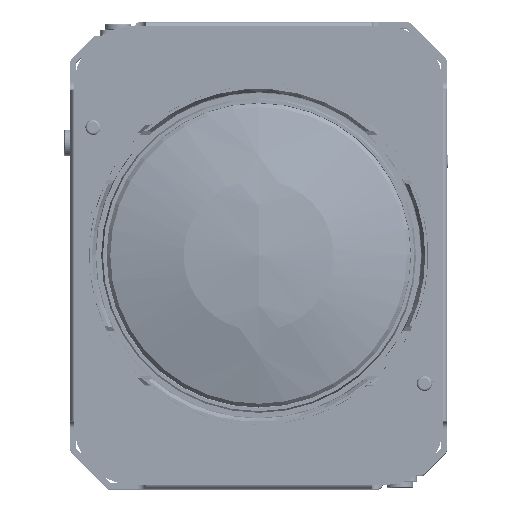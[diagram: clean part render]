
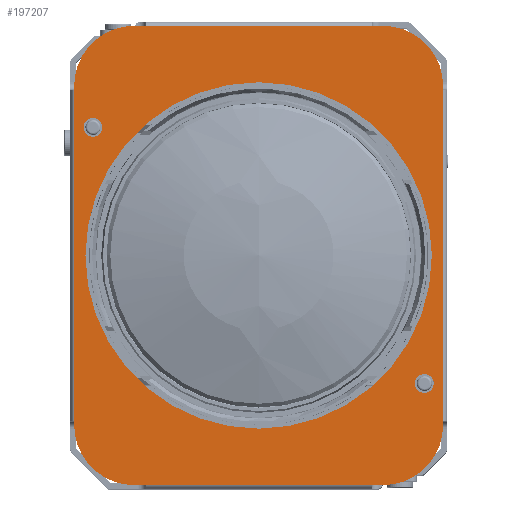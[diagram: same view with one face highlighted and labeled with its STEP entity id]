
A CAD part, top view. The second image highlights one B-rep face of the part: STEP entity #197207.
In plain terms, the highlighted planar face has unit normal (0, 0, 1).
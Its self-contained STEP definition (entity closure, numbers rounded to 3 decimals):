
#197180 = VERTEX_POINT('',#197181);
#197181 = CARTESIAN_POINT('',(24.5,22.5,57.75));
#197189 = VERTEX_POINT('',#197190);
#197190 = CARTESIAN_POINT('',(16.5,30.5,57.75));
#197196 = EDGE_CURVE('',#197189,#197180,#197197,.T.);
#197197 = CIRCLE('',#197198,8.);
#197198 = AXIS2_PLACEMENT_3D('',#197199,#197200,#197201);
#197199 = CARTESIAN_POINT('',(16.5,22.5,57.75));
#197200 = DIRECTION('',(0.,0.,-1.));
#197201 = DIRECTION('',(0.,1.,0.));
#197207 = ADVANCED_FACE('',(#197208,#197268,#197288,#197308),#197328,.T.
  );
#197208 = FACE_BOUND('',#197209,.F.);
#197209 = EDGE_LOOP('',(#197210,#197211,#197219,#197228,#197236,#197245,
    #197253,#197262));
#197210 = ORIENTED_EDGE('',*,*,#197196,.T.);
#197211 = ORIENTED_EDGE('',*,*,#197212,.T.);
#197212 = EDGE_CURVE('',#197180,#197213,#197215,.T.);
#197213 = VERTEX_POINT('',#197214);
#197214 = CARTESIAN_POINT('',(24.5,-22.5,57.75));
#197215 = LINE('',#197216,#197217);
#197216 = CARTESIAN_POINT('',(24.5,22.5,57.75));
#197217 = VECTOR('',#197218,1.);
#197218 = DIRECTION('',(0.,-1.,0.));
#197219 = ORIENTED_EDGE('',*,*,#197220,.T.);
#197220 = EDGE_CURVE('',#197213,#197221,#197223,.T.);
#197221 = VERTEX_POINT('',#197222);
#197222 = CARTESIAN_POINT('',(16.5,-30.5,57.75));
#197223 = CIRCLE('',#197224,8.);
#197224 = AXIS2_PLACEMENT_3D('',#197225,#197226,#197227);
#197225 = CARTESIAN_POINT('',(16.5,-22.5,57.75));
#197226 = DIRECTION('',(0.,0.,-1.));
#197227 = DIRECTION('',(1.,0.,0.));
#197228 = ORIENTED_EDGE('',*,*,#197229,.F.);
#197229 = EDGE_CURVE('',#197230,#197221,#197232,.T.);
#197230 = VERTEX_POINT('',#197231);
#197231 = CARTESIAN_POINT('',(-16.5,-30.5,57.75));
#197232 = LINE('',#197233,#197234);
#197233 = CARTESIAN_POINT('',(-16.5,-30.5,57.75));
#197234 = VECTOR('',#197235,1.);
#197235 = DIRECTION('',(1.,0.,0.));
#197236 = ORIENTED_EDGE('',*,*,#197237,.T.);
#197237 = EDGE_CURVE('',#197230,#197238,#197240,.T.);
#197238 = VERTEX_POINT('',#197239);
#197239 = CARTESIAN_POINT('',(-24.5,-22.5,57.75));
#197240 = CIRCLE('',#197241,8.);
#197241 = AXIS2_PLACEMENT_3D('',#197242,#197243,#197244);
#197242 = CARTESIAN_POINT('',(-16.5,-22.5,57.75));
#197243 = DIRECTION('',(0.,0.,-1.));
#197244 = DIRECTION('',(0.,-1.,0.));
#197245 = ORIENTED_EDGE('',*,*,#197246,.F.);
#197246 = EDGE_CURVE('',#197247,#197238,#197249,.T.);
#197247 = VERTEX_POINT('',#197248);
#197248 = CARTESIAN_POINT('',(-24.5,22.5,57.75));
#197249 = LINE('',#197250,#197251);
#197250 = CARTESIAN_POINT('',(-24.5,22.5,57.75));
#197251 = VECTOR('',#197252,1.);
#197252 = DIRECTION('',(0.,-1.,0.));
#197253 = ORIENTED_EDGE('',*,*,#197254,.T.);
#197254 = EDGE_CURVE('',#197247,#197255,#197257,.T.);
#197255 = VERTEX_POINT('',#197256);
#197256 = CARTESIAN_POINT('',(-16.5,30.5,57.75));
#197257 = CIRCLE('',#197258,8.);
#197258 = AXIS2_PLACEMENT_3D('',#197259,#197260,#197261);
#197259 = CARTESIAN_POINT('',(-16.5,22.5,57.75));
#197260 = DIRECTION('',(0.,0.,-1.));
#197261 = DIRECTION('',(-1.,0.,0.));
#197262 = ORIENTED_EDGE('',*,*,#197263,.F.);
#197263 = EDGE_CURVE('',#197189,#197255,#197264,.T.);
#197264 = LINE('',#197265,#197266);
#197265 = CARTESIAN_POINT('',(16.5,30.5,57.75));
#197266 = VECTOR('',#197267,1.);
#197267 = DIRECTION('',(-1.,0.,0.));
#197268 = FACE_BOUND('',#197269,.F.);
#197269 = EDGE_LOOP('',(#197270,#197281));
#197270 = ORIENTED_EDGE('',*,*,#197271,.T.);
#197271 = EDGE_CURVE('',#197272,#197274,#197276,.T.);
#197272 = VERTEX_POINT('',#197273);
#197273 = CARTESIAN_POINT('',(-23.,0.,57.75));
#197274 = VERTEX_POINT('',#197275);
#197275 = CARTESIAN_POINT('',(23.,0.,57.75));
#197276 = CIRCLE('',#197277,23.);
#197277 = AXIS2_PLACEMENT_3D('',#197278,#197279,#197280);
#197278 = CARTESIAN_POINT('',(0.,0.,57.75));
#197279 = DIRECTION('',(0.,0.,1.));
#197280 = DIRECTION('',(-1.,0.,0.));
#197281 = ORIENTED_EDGE('',*,*,#197282,.T.);
#197282 = EDGE_CURVE('',#197274,#197272,#197283,.T.);
#197283 = CIRCLE('',#197284,23.);
#197284 = AXIS2_PLACEMENT_3D('',#197285,#197286,#197287);
#197285 = CARTESIAN_POINT('',(0.,0.,57.75));
#197286 = DIRECTION('',(0.,0.,1.));
#197287 = DIRECTION('',(1.,0.,-0.));
#197288 = FACE_BOUND('',#197289,.F.);
#197289 = EDGE_LOOP('',(#197290,#197301));
#197290 = ORIENTED_EDGE('',*,*,#197291,.T.);
#197291 = EDGE_CURVE('',#197292,#197294,#197296,.T.);
#197292 = VERTEX_POINT('',#197293);
#197293 = CARTESIAN_POINT('',(-20.75,17.,57.75));
#197294 = VERTEX_POINT('',#197295);
#197295 = CARTESIAN_POINT('',(-23.25,17.,57.75));
#197296 = CIRCLE('',#197297,1.25);
#197297 = AXIS2_PLACEMENT_3D('',#197298,#197299,#197300);
#197298 = CARTESIAN_POINT('',(-22.,17.,57.75));
#197299 = DIRECTION('',(0.,0.,1.));
#197300 = DIRECTION('',(1.,0.,-0.));
#197301 = ORIENTED_EDGE('',*,*,#197302,.T.);
#197302 = EDGE_CURVE('',#197294,#197292,#197303,.T.);
#197303 = CIRCLE('',#197304,1.25);
#197304 = AXIS2_PLACEMENT_3D('',#197305,#197306,#197307);
#197305 = CARTESIAN_POINT('',(-22.,17.,57.75));
#197306 = DIRECTION('',(0.,0.,1.));
#197307 = DIRECTION('',(-1.,0.,0.));
#197308 = FACE_BOUND('',#197309,.F.);
#197309 = EDGE_LOOP('',(#197310,#197321));
#197310 = ORIENTED_EDGE('',*,*,#197311,.T.);
#197311 = EDGE_CURVE('',#197312,#197314,#197316,.T.);
#197312 = VERTEX_POINT('',#197313);
#197313 = CARTESIAN_POINT('',(23.25,-17.,57.75));
#197314 = VERTEX_POINT('',#197315);
#197315 = CARTESIAN_POINT('',(20.75,-17.,57.75));
#197316 = CIRCLE('',#197317,1.25);
#197317 = AXIS2_PLACEMENT_3D('',#197318,#197319,#197320);
#197318 = CARTESIAN_POINT('',(22.,-17.,57.75));
#197319 = DIRECTION('',(0.,0.,1.));
#197320 = DIRECTION('',(1.,0.,-0.));
#197321 = ORIENTED_EDGE('',*,*,#197322,.T.);
#197322 = EDGE_CURVE('',#197314,#197312,#197323,.T.);
#197323 = CIRCLE('',#197324,1.25);
#197324 = AXIS2_PLACEMENT_3D('',#197325,#197326,#197327);
#197325 = CARTESIAN_POINT('',(22.,-17.,57.75));
#197326 = DIRECTION('',(0.,0.,1.));
#197327 = DIRECTION('',(-1.,0.,0.));
#197328 = PLANE('',#197329);
#197329 = AXIS2_PLACEMENT_3D('',#197330,#197331,#197332);
#197330 = CARTESIAN_POINT('',(0.,0.,57.75));
#197331 = DIRECTION('',(0.,0.,1.));
#197332 = DIRECTION('',(1.,0.,-0.));
